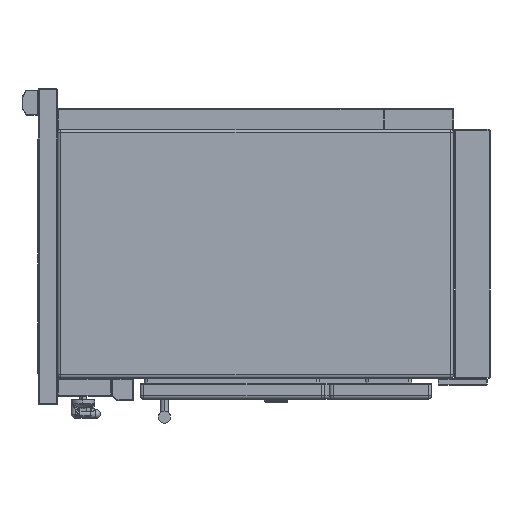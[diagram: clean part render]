
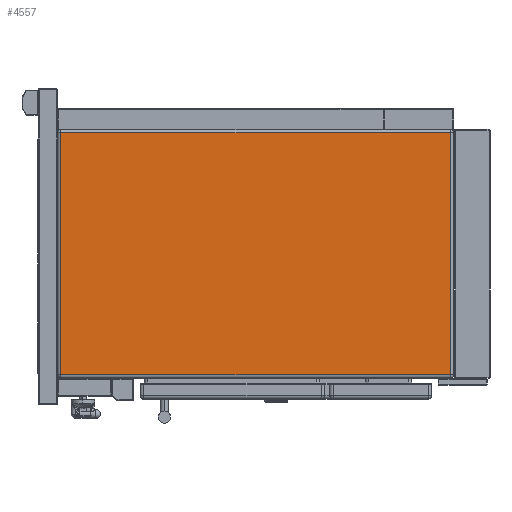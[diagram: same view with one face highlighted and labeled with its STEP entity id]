
A CAD part, left-side view. The second image highlights one B-rep face of the part: STEP entity #4557.
In plain terms, the highlighted planar face has unit normal (-1, 0, 0).
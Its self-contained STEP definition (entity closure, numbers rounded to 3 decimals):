
#761=DIRECTION('',(0.,1.,0.));
#762=VECTOR('',#761,801.);
#763=CARTESIAN_POINT('',(-700.,82.,-249.));
#764=LINE('',#763,#762);
#765=DIRECTION('',(0.,0.,1.));
#766=VECTOR('',#765,498.);
#767=CARTESIAN_POINT('',(-700.,883.,-249.));
#768=LINE('',#767,#766);
#769=DIRECTION('',(0.,-1.,0.));
#770=VECTOR('',#769,801.);
#771=CARTESIAN_POINT('',(-700.,883.,249.));
#772=LINE('',#771,#770);
#773=DIRECTION('',(0.,0.,-1.));
#774=VECTOR('',#773,498.);
#775=CARTESIAN_POINT('',(-700.,82.,249.));
#776=LINE('',#775,#774);
#3068=CARTESIAN_POINT('',(-700.,82.,-249.));
#3069=CARTESIAN_POINT('',(-700.,883.,-249.));
#3070=VERTEX_POINT('',#3068);
#3071=VERTEX_POINT('',#3069);
#3072=CARTESIAN_POINT('',(-700.,82.,249.));
#3073=VERTEX_POINT('',#3072);
#3090=CARTESIAN_POINT('',(-700.,883.,249.));
#3091=VERTEX_POINT('',#3090);
#4543=CARTESIAN_POINT('',(-700.,0.,0.));
#4544=DIRECTION('',(-1.,0.,0.));
#4545=DIRECTION('',(0.,0.,1.));
#4546=AXIS2_PLACEMENT_3D('',#4543,#4544,#4545);
#4547=PLANE('',#4546);
#4549=ORIENTED_EDGE('',*,*,#4548,.T.);
#4551=ORIENTED_EDGE('',*,*,#4550,.T.);
#4552=ORIENTED_EDGE('',*,*,#4533,.T.);
#4554=ORIENTED_EDGE('',*,*,#4553,.T.);
#4555=EDGE_LOOP('',(#4549,#4551,#4552,#4554));
#4556=FACE_OUTER_BOUND('',#4555,.F.);
#4533=EDGE_CURVE('',#3091,#3073,#772,.T.);
#4548=EDGE_CURVE('',#3070,#3071,#764,.T.);
#4550=EDGE_CURVE('',#3071,#3091,#768,.T.);
#4553=EDGE_CURVE('',#3073,#3070,#776,.T.);
#4557=ADVANCED_FACE('',(#4556),#4547,.T.);
